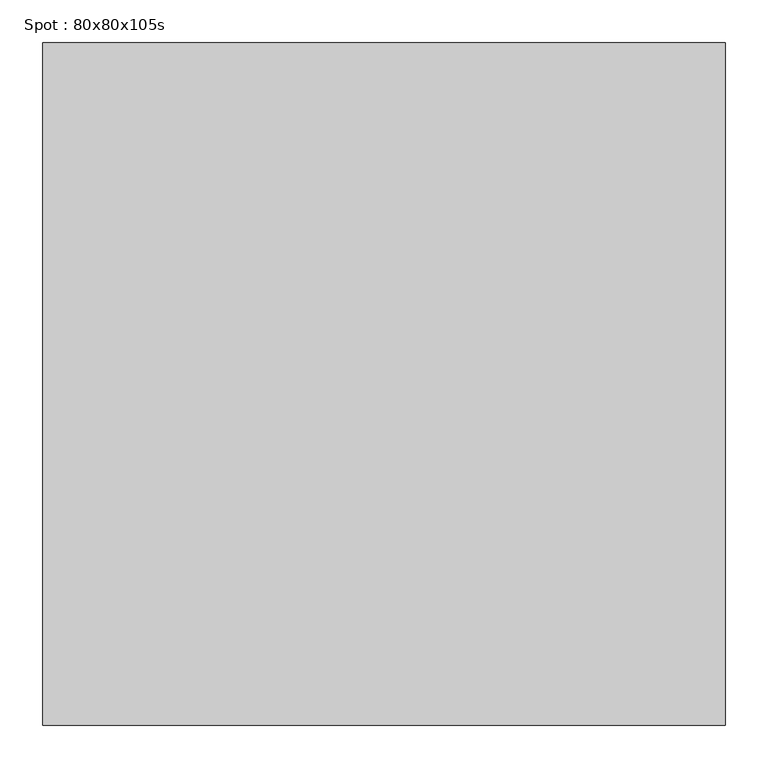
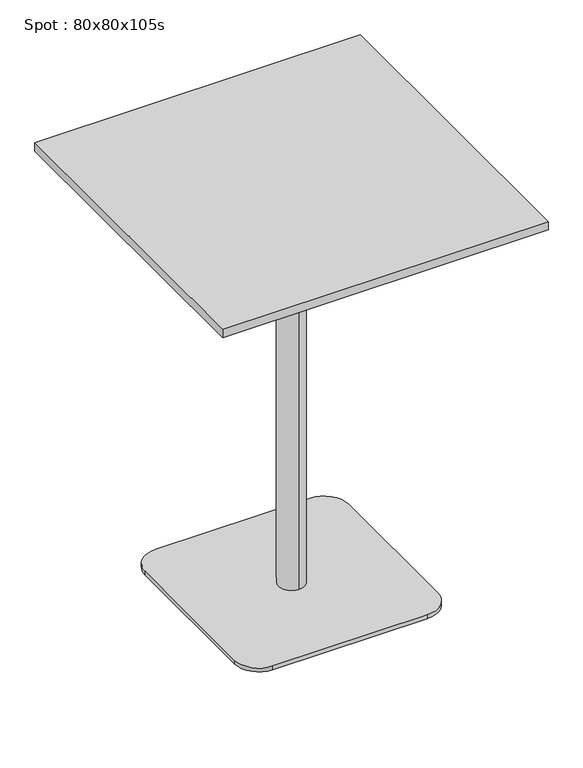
"""IFC4 building model written with IfcOpenShell, lengths in millimetres: furniture geometry, Spot : 80x80x105s."""

from ifc_helpers import new_model, si_unit, point, frame, frame_2d, origin, origin_with_axes, place, context, project, spatial, polyline, circle_curve, trimmed, segment, composite_curve, outline, extrude, source, transform, mapped, element, save
from ifc_brep_helpers import plane_surface, cylinder_surface, revolved_surface, advanced_brep


def spot_80x80x105s_d37524c9(model_context):
    return source(origin(), model_context, "Body", "SolidModel", [
        extrude(outline(polyline([(400.0, 400.0), (400.0, -400.0), (-400.0, -400.0), (-400.0, 400.0), (400.0, 400.0)])), frame((0.0, 0.0, 1028.0), z_axis=(0.0, 0.0, 1.0), x_axis=(1.0, 0.0, 0.0)), (0.0, 0.0, 1.0), 22.0),
        extrude(outline(composite_curve([segment(trimmed(circle_curve(frame_2d((190.0, 190.0)), 60.0), [point((190.0, 250.0))], [point((250.0, 190.0))], False, "CARTESIAN"), True, "CONTINUOUS"), segment(polyline([(250.0, 190.0), (250.0, -190.0)]), True, "CONTINUOUS"), segment(trimmed(circle_curve(frame_2d((190.0, -190.0)), 60.0), [point((250.0, -190.0))], [point((190.0, -250.0))], False, "CARTESIAN"), True, "CONTINUOUS"), segment(polyline([(190.0, -250.0), (-190.0, -250.0)]), True, "CONTINUOUS"), segment(trimmed(circle_curve(frame_2d((-190.0, -190.0)), 60.0), [point((-190.0, -250.0))], [point((-250.0, -190.0))], False, "CARTESIAN"), True, "CONTINUOUS"), segment(polyline([(-250.0, -190.0), (-250.0, 190.0)]), True, "CONTINUOUS"), segment(trimmed(circle_curve(frame_2d((-190.0, 190.0)), 60.0), [point((-250.0, 190.0))], [point((-190.0, 250.0))], False, "CARTESIAN"), True, "CONTINUOUS"), segment(polyline([(-190.0, 250.0), (190.0, 250.0)]), True, "CONTINUOUS")], self_intersect=False)), origin_with_axes(), (0.0, 0.0, 1.0), 10.0),
        advanced_brep(
        [(0.0, 32.0, 10.0), (0.0, -32.0, 10.0), (0.0, -32.0, 997.406916), (0.0, 32.0, 997.406916), (0.0, 0.0, 10.0), (0.0, 150.0, 1028.0), (0.0, -150.0, 1028.0), (0.0, 0.0, 1028.0), (0.0, 150.0, 1016.7213673), (0.0, -150.0, 1016.7213673)],
        [
            (0, 1, circle_curve(frame((0.0, 0.0, 10.0), z_axis=(0.0, 0.0, 1.0), x_axis=(0.0, -1.0, 0.0)), 32.0)),
            (1, 2),
            (2, 3, circle_curve(frame((0.0, 0.0, 997.406916), z_axis=(0.0, 0.0, -1.0), x_axis=(0.0, -1.0, 0.0)), 32.0)),
            (3, 0),
            (1, 0, circle_curve(frame((0.0, 0.0, 10.0), z_axis=(0.0, 0.0, 1.0), x_axis=(0.0, -1.0, 0.0)), 32.0)),
            (3, 2, circle_curve(frame((0.0, 0.0, 997.406916), z_axis=(0.0, 0.0, -1.0), x_axis=(0.0, -1.0, 0.0)), 32.0)),
            (4, 1),
            (0, 4),
            (5, 6, circle_curve(frame((0.0, 0.0, 1028.0), z_axis=(0.0, 0.0, 1.0), x_axis=(0.0, -1.0, 0.0)), 150.0)),
            (6, 7),
            (7, 5),
            (6, 5, circle_curve(frame((0.0, 0.0, 1028.0), z_axis=(0.0, 0.0, 1.0), x_axis=(0.0, -1.0, 0.0)), 150.0)),
            (8, 9, circle_curve(frame((0.0, 0.0, 1016.7213673), z_axis=(0.0, 0.0, 1.0), x_axis=(0.0, -1.0, 0.0)), 150.0)),
            (9, 6),
            (5, 8),
            (9, 8, circle_curve(frame((0.0, 0.0, 1016.7213673), z_axis=(0.0, 0.0, 1.0), x_axis=(0.0, -1.0, 0.0)), 150.0)),
            (2, 9),
            (8, 3),
        ],
        [
            cylinder_surface(frame((0.0, 0.0, 1390.0), z_axis=(0.0, 0.0, -1.0), x_axis=(0.0, -1.0, 0.0)), 32.0),
            plane_surface(frame((0.0, 0.0, 10.0), z_axis=(0.0, 0.0, -1.0), x_axis=(0.0, -1.0, 0.0))),
            plane_surface(frame((0.0, 0.0, 1028.0), z_axis=(0.0, 0.0, 1.0), x_axis=(0.0, -1.0, 0.0))),
            cylinder_surface(frame((0.0, 0.0, 1390.0), z_axis=(0.0, 0.0, -1.0), x_axis=(0.0, -1.0, 0.0)), 150.0),
            revolved_surface(polyline([(0.0, -150.0, 1016.7213673), (0.0, -32.0, 997.406916)]), (0.0, 0.0, 1390.0), (0.0, 0.0, -1.0)),
        ],
        [
            (0, [[1, 2, 3, 4]]),
            (0, [[5, -4, 6, -2]]),
            (1, [[7, -1, 8]]),
            (1, [[-8, -5, -7]]),
            (2, [[9, 10, 11]]),
            (2, [[12, -11, -10]]),
            (3, [[13, 14, -9, 15]]),
            (3, [[16, -15, -12, -14]]),
            (4, [[-3, 17, -13, 18]]),
            (4, [[-6, -18, -16, -17]]),
        ],
    ),
        extrude(outline(polyline([(0.0, 0.0), (-20.0, 0.0), (-20.0, 20.0), (0.0, 20.0), (0.0, 0.0)])), origin_with_axes(), (0.0, 0.0, 1.0), 10.0),
    ])


if __name__ == "__main__":
    model = new_model("IFC4")
    model_context = context("Model", 3, world=origin())
    ifc_project = project(units=[si_unit("LENGTHUNIT", "METRE", prefix="MILLI")], contexts=[model_context])
    site = spatial("IfcSite", under=ifc_project)
    building = spatial("IfcBuilding", under=site)
    placement = place(None, origin())
    spot_80x80x105s_shape = spot_80x80x105s_d37524c9(model_context)
    element("IfcFurniture", 1, ObjectType="Spot : 80x80x105s", at=placement, inside=building, context=model_context, shape_type="MappedRepresentation", body=[
        mapped(spot_80x80x105s_shape, transform((0.0, 0.0, 0.0), x_axis=(1.0, 0.0, 0.0), y_axis=(0.0, 1.0, 0.0), z_axis=(0.0, 0.0, 1.0))),
    ])
    save(model, "model.ifc")
